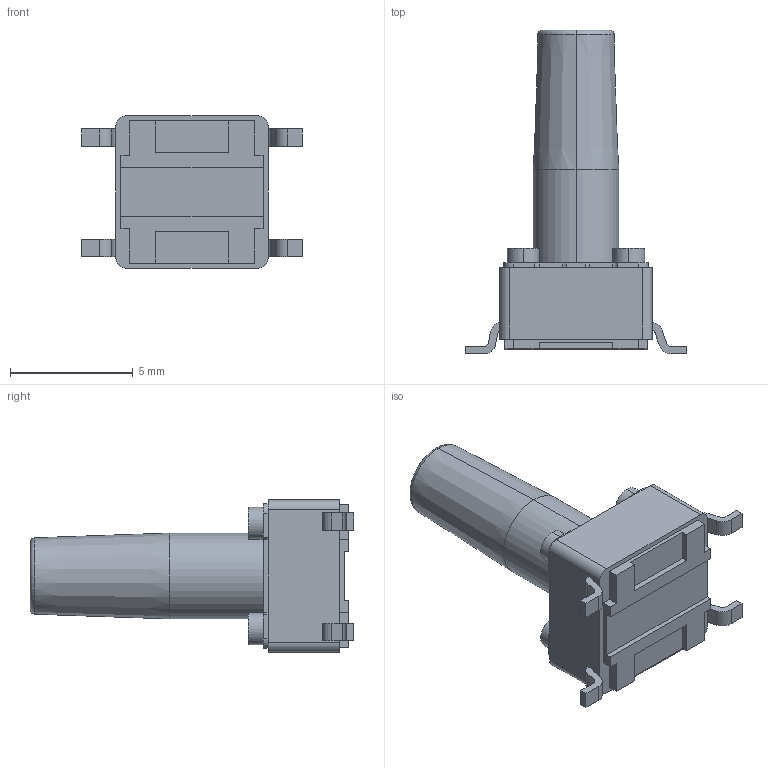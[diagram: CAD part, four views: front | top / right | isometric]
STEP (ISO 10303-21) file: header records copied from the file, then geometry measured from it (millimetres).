
FILE_DESCRIPTION (( 'STEP AP203' ), '1' );
FILE_NAME ('TSS-66.STEP', '2016-11-16T09:15:23', ( 'Windows 使用者' ), ( 'DIPTRONICS' ), 'SwSTEP 2.0', 'SolidWorks 2008', '' );
FILE_SCHEMA (( 'CONFIG_CONTROL_DESIGN' ));
Length unit declared in the file: millimetre
Products named in the file (1): TSS-66
Bounding box: 9 x 13.2 x 6.2 mm (x, y, z)
Volume: 186.8 mm3; surface area: 474 mm2
Topology: 1 solids, 1 shells, 334 faces, 938 edges, 611 vertices
Faces by surface type: plane 195, cylinder 103, bspline 28, cone 6, torus 2
Entity records: 11663 total; most frequent: CARTESIAN_POINT 3013, ORIENTED_EDGE 1872, DIRECTION 1708, EDGE_CURVE 936, VERTEX_POINT 611, LINE 592, VECTOR 592, AXIS2_PLACEMENT_3D 558
